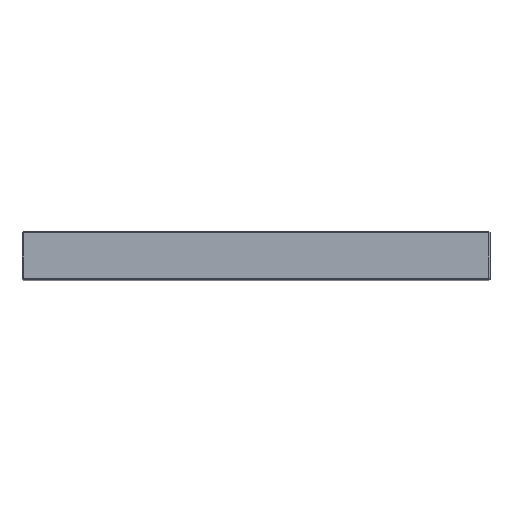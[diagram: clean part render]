
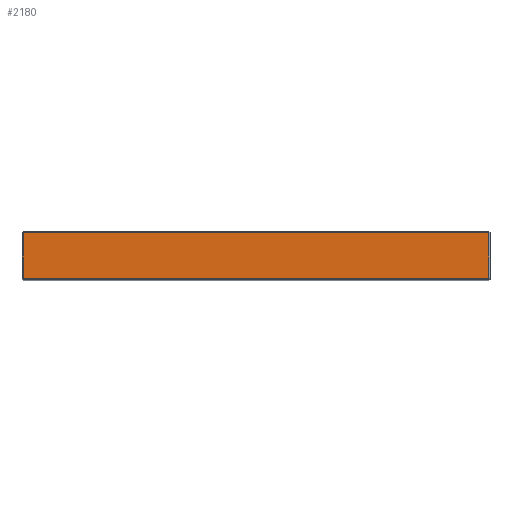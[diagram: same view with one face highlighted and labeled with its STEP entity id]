
A CAD part, top view. The second image highlights one B-rep face of the part: STEP entity #2180.
In plain terms, the highlighted planar face has unit normal (0, 0, 1).
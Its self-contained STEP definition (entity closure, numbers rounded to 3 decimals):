
#92 = DIRECTION ( 'NONE',  ( -1., 0., 0. ) ) ;
#98 = CARTESIAN_POINT ( 'NONE',  ( -173., 35., 223. ) ) ;
#165 = CARTESIAN_POINT ( 'NONE',  ( 173., 1., 223. ) ) ;
#174 = DIRECTION ( 'NONE',  ( 1., 0., 0. ) ) ;
#195 = VECTOR ( 'NONE', #174, 1000. ) ;
#216 = CARTESIAN_POINT ( 'NONE',  ( -172., 35., 223. ) ) ;
#234 = CARTESIAN_POINT ( 'NONE',  ( 172., 1., 223. ) ) ;
#254 = CARTESIAN_POINT ( 'NONE',  ( -172., 1., 223. ) ) ;
#266 = LINE ( 'NONE', #165, #195 ) ;
#399 = EDGE_LOOP ( 'NONE', ( #1710, #769, #642, #619 ) ) ;
#561 = VERTEX_POINT ( 'NONE', #1764 ) ;
#619 = ORIENTED_EDGE ( 'NONE', *, *, #1646, .T. ) ;
#642 = ORIENTED_EDGE ( 'NONE', *, *, #1369, .T. ) ;
#707 = VECTOR ( 'NONE', #1067, 1000. ) ;
#769 = ORIENTED_EDGE ( 'NONE', *, *, #1186, .T. ) ;
#807 = LINE ( 'NONE', #98, #1392 ) ;
#999 = EDGE_CURVE ( 'NONE', #561, #1387, #807, .T. ) ;
#1008 = VERTEX_POINT ( 'NONE', #234 ) ;
#1015 = VERTEX_POINT ( 'NONE', #254 ) ;
#1060 = CARTESIAN_POINT ( 'NONE',  ( -172., 36., 223. ) ) ;
#1067 = DIRECTION ( 'NONE',  ( 0., -1., 0. ) ) ;
#1186 = EDGE_CURVE ( 'NONE', #1387, #1015, #2096, .T. ) ;
#1236 = FACE_OUTER_BOUND ( 'NONE', #399, .T. ) ;
#1369 = EDGE_CURVE ( 'NONE', #1015, #1008, #266, .T. ) ;
#1387 = VERTEX_POINT ( 'NONE', #216 ) ;
#1392 = VECTOR ( 'NONE', #92, 1000. ) ;
#1429 = CARTESIAN_POINT ( 'NONE',  ( 172., 36., 223. ) ) ;
#1646 = EDGE_CURVE ( 'NONE', #1008, #561, #2187, .T. ) ;
#1710 = ORIENTED_EDGE ( 'NONE', *, *, #999, .T. ) ;
#1764 = CARTESIAN_POINT ( 'NONE',  ( 172., 35., 223. ) ) ;
#1769 = VECTOR ( 'NONE', #1785, 1000. ) ;
#1785 = DIRECTION ( 'NONE',  ( 0., 1., 0. ) ) ;
#1881 = PLANE ( 'NONE',  #2130 ) ;
#1886 = DIRECTION ( 'NONE',  ( -1., 0., 0. ) ) ;
#1915 = CARTESIAN_POINT ( 'NONE',  ( 173., 36., 223. ) ) ;
#2042 = DIRECTION ( 'NONE',  ( 0., 0., -1. ) ) ;
#2096 = LINE ( 'NONE', #1060, #707 ) ;
#2130 = AXIS2_PLACEMENT_3D ( 'NONE', #1915, #2042, #1886 ) ;
#2180 = ADVANCED_FACE ( 'NONE', ( #1236 ), #1881, .F. ) ;
#2187 = LINE ( 'NONE', #1429, #1769 ) ;
